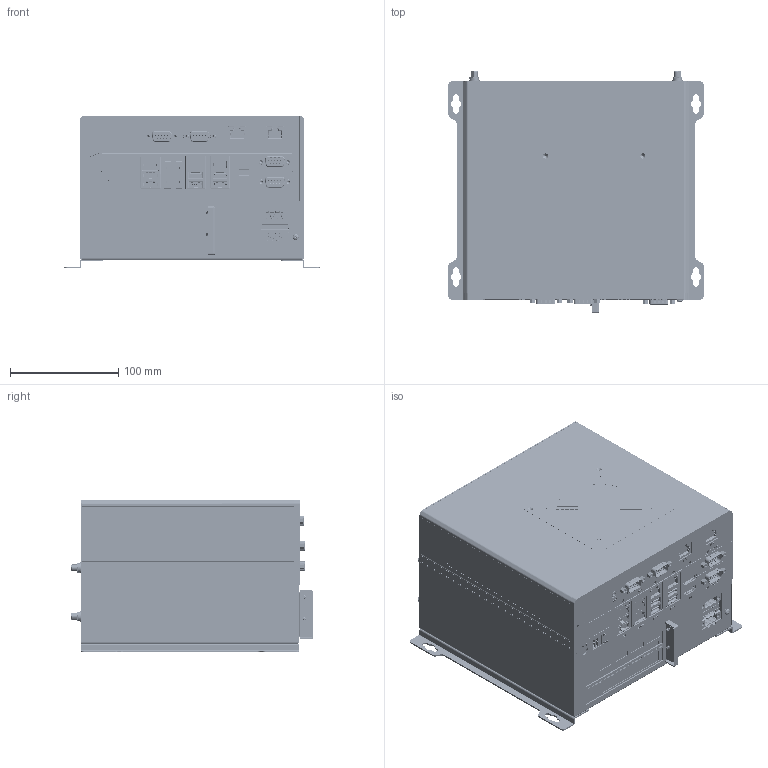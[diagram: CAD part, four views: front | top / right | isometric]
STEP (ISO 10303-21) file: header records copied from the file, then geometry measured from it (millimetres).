
FILE_DESCRIPTION(/* description */ (''),/* implementation_level */ '2;1');
FILE_NAME(/* name */ 'x5000.stp',/* time_stamp */ '2024-08-21T17:44:51+08:00',/* author */ (''),/* organization */ (''),/* preprocessor_version */ 'ST-DEVELOPER v16',/* originating_system */ 'SIEMENS PLM Software NX 10.0',/* authorisation */ '');
FILE_SCHEMA (('AUTOMOTIVE_DESIGN { 1 0 10303 214 3 1 1 1 }'));
Products named in the file (1): 新3d5
Bounding box: 236 x 224.1 x 141 mm (x, y, z)
Volume: 5527608.8 mm3; surface area: 316199 mm2
Topology: 1 solids, 57 shells, 10348 faces, 28865 edges, 18841 vertices
Faces by surface type: plane 5756, extrusion 2046, cylinder 1724, bspline 401, torus 174, cone 148, sphere 99
Full cylindrical faces by diameter (mm): 0.175 x1, 1.5 x4, 2.5 x2, 2.675 x3, 3.2 x1, 3.4 x6, 4 x4, 4.111 x1, 4.2 x6, 4.4 x4, 4.8 x6, 5.5 x3, 5.6 x1, 6.018 x1, 6.8 x3, 7 x1, 8 x1, 8.2 x1, 8.8 x4, 10.2 x4
Entity records: 454274 total; most frequent: CARTESIAN_POINT 202924, ORIENTED_EDGE 57096, DIRECTION 42289, EDGE_CURVE 28548, VECTOR 19409, VERTEX_POINT 18794, LINE 17363, AXIS2_PLACEMENT_3D 11440
